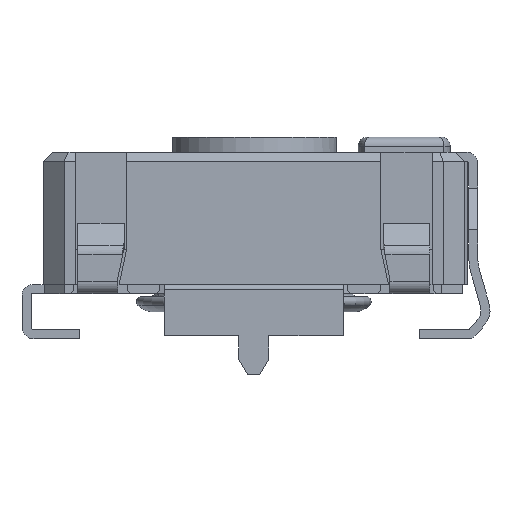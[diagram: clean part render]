
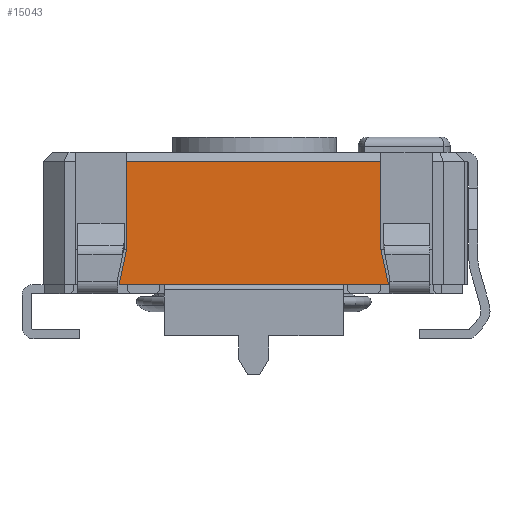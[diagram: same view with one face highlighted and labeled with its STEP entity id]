
A CAD part, left-side view. The second image highlights one B-rep face of the part: STEP entity #15043.
In plain terms, the highlighted planar face has unit normal (-1, 0, 0).
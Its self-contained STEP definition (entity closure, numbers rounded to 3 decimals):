
#990=FACE_OUTER_BOUND('',#1765,.T.);
#1765=EDGE_LOOP('',(#12783,#12784,#12785,#12786,#12787,#12788));
#2421=LINE('',#21938,#4053);
#3022=LINE('',#23762,#4654);
#3026=LINE('',#23769,#4658);
#3378=LINE('',#24522,#5010);
#3383=LINE('',#24530,#5015);
#3384=LINE('',#24532,#5016);
#4053=VECTOR('',#17617,10.);
#4654=VECTOR('',#19132,10.);
#4658=VECTOR('',#19138,10.);
#5010=VECTOR('',#19874,10.);
#5015=VECTOR('',#19881,10.);
#5016=VECTOR('',#19884,10.);
#6011=VERTEX_POINT('',#21935);
#6012=VERTEX_POINT('',#21937);
#6583=VERTEX_POINT('',#23759);
#6584=VERTEX_POINT('',#23761);
#6586=VERTEX_POINT('',#23767);
#6781=VERTEX_POINT('',#24528);
#7602=EDGE_CURVE('',#6011,#6012,#2421,.T.);
#8423=EDGE_CURVE('',#6583,#6584,#3022,.T.);
#8427=EDGE_CURVE('',#6583,#6586,#3026,.T.);
#8802=EDGE_CURVE('',#6012,#6586,#3378,.T.);
#8807=EDGE_CURVE('',#6781,#6011,#3383,.T.);
#8808=EDGE_CURVE('',#6781,#6584,#3384,.T.);
#12783=ORIENTED_EDGE('',*,*,#8423,.F.);
#12784=ORIENTED_EDGE('',*,*,#8427,.T.);
#12785=ORIENTED_EDGE('',*,*,#8802,.F.);
#12786=ORIENTED_EDGE('',*,*,#7602,.F.);
#12787=ORIENTED_EDGE('',*,*,#8807,.F.);
#12788=ORIENTED_EDGE('',*,*,#8808,.T.);
#13577=PLANE('',#16174);
#15043=ADVANCED_FACE('',(#990),#13577,.T.);
#16174=AXIS2_PLACEMENT_3D('',#24566,#19930,#19931);
#17617=DIRECTION('',(0.,1.,0.));
#19132=DIRECTION('',(0.,-1.,0.));
#19138=DIRECTION('',(0.,0.,-1.));
#19874=DIRECTION('',(0.,-0.208,0.978));
#19881=DIRECTION('',(0.,-0.208,-0.978));
#19884=DIRECTION('',(0.,0.,1.));
#19930=DIRECTION('center_axis',(-1.,0.,0.));
#19931=DIRECTION('ref_axis',(0.,0.,1.));
#21935=CARTESIAN_POINT('',(-7.,-4.425,-2.25));
#21937=CARTESIAN_POINT('',(-7.,4.525,-2.25));
#21938=CARTESIAN_POINT('',(-7.,-6.25,-2.25));
#23759=CARTESIAN_POINT('',(-7.,4.275,1.85));
#23761=CARTESIAN_POINT('',(-7.,-4.175,1.85));
#23762=CARTESIAN_POINT('',(-7.,-3.1,1.85));
#23767=CARTESIAN_POINT('',(-7.,4.275,-1.074));
#23769=CARTESIAN_POINT('',(-7.,4.275,-2.25));
#24522=CARTESIAN_POINT('',(-7.,4.525,-2.25));
#24528=CARTESIAN_POINT('',(-7.,-4.175,-1.074));
#24530=CARTESIAN_POINT('',(-7.,-4.175,-1.074));
#24532=CARTESIAN_POINT('',(-7.,-4.175,-2.25));
#24566=CARTESIAN_POINT('Origin',(-7.,-6.25,-2.25));
